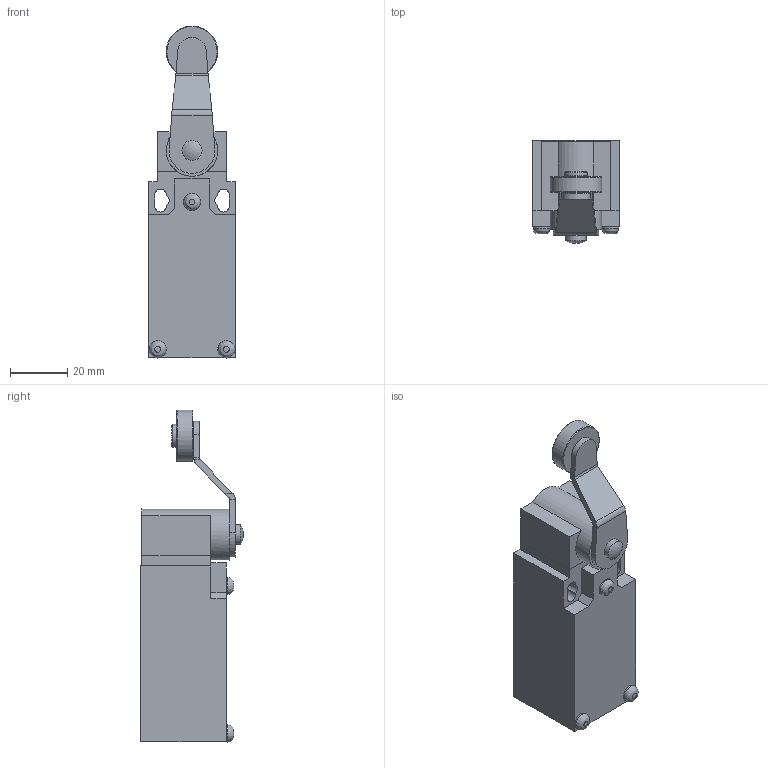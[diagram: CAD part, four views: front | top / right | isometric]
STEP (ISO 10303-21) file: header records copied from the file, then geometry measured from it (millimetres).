
FILE_DESCRIPTION((''),'2;1');
FILE_NAME('D:\Documenti_D\Corrispondenza\Comepi\Catalogo da fare\Modelli Nov 2011\AM\STEP\AM1-F45.iam.stp','2011-11-17T11:37:03',(''),(''),'Autodesk Inventor 2010','Autodesk Inventor 2010','');
FILE_SCHEMA(('AUTOMOTIVE_DESIGN { 1 0 10303 214 1 1 1 1 }'));
Length unit declared in the file: millimetre
Products named in the file (5): AM1-F45; AM1; T45.iam; T45_1; T45_2
Assembly tree (4 placements, depth 3):
  AM1-F45
    AM1
    T45.iam
      T45_1
      T45_2
Bounding box: 30.3 x 35.91 x 116 mm (x, y, z)
Volume: 64183.1 mm3; surface area: 16890.9 mm2
Topology: 3 solids, 3 shells, 97 faces, 224 edges, 142 vertices
Faces by surface type: plane 60, cylinder 26, torus 4, bspline 3, cone 3, sphere 1
Full cylindrical faces by diameter (mm): 6 x5, 7 x1, 8 x1, 18 x2, 20.4 x1
Entity records: 2914 total; most frequent: CARTESIAN_POINT 614, DIRECTION 458, ORIENTED_EDGE 402, EDGE_CURVE 201, AXIS2_PLACEMENT_3D 162, VERTEX_POINT 139, VECTOR 134, LINE 134
